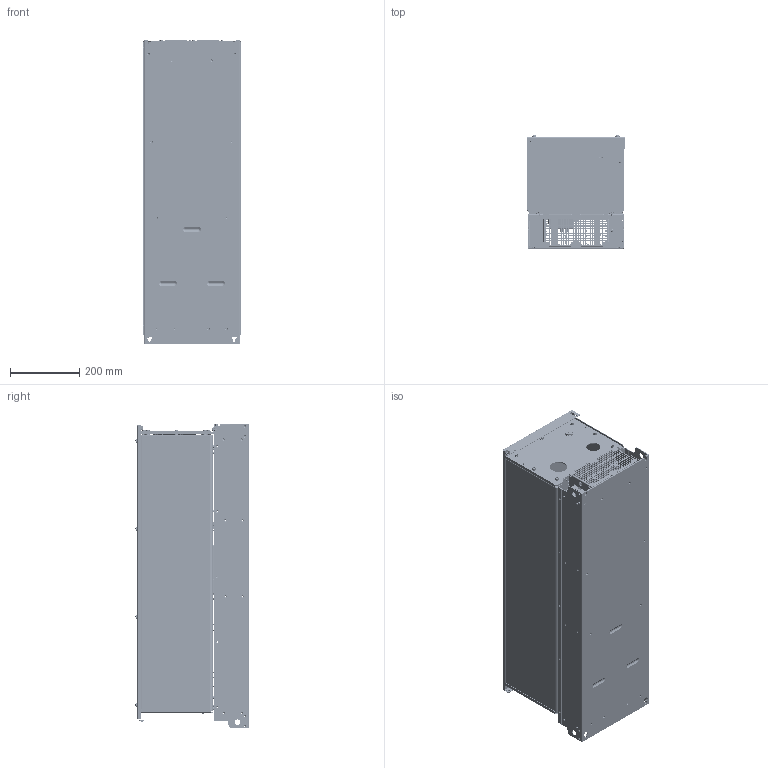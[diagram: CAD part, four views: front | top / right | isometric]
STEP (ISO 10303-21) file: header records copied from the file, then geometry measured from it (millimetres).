
FILE_DESCRIPTION(('STEP AP242'),'1');
FILE_NAME('atv212wd37n4c.stp','2019-06-11T12:59:38',('TraceParts'),('TraceParts S.A.'),'Spatial InterOp 3D',' ',' ');
FILE_SCHEMA(('AP242_MANAGED_MODEL_BASED_3D_ENGINEERING_MIM_LF {1 0 10303 442 1 1 4}'));
Length unit declared in the file: millimetre
Products named in the file (1): atv212wd37n4c_1
Bounding box: 285 x 327.67 x 880 mm (x, y, z)
Volume: 3030613.9 mm3; surface area: 3556855 mm2
Topology: 176 solids, 176 shells, 7933 faces, 20047 edges, 12490 vertices
Faces by surface type: plane 3176, cylinder 2996, cone 776, torus 516, sphere 262, bspline 186, extrusion 21
Entity records: 258127 total; most frequent: CARTESIAN_POINT 63356, DIRECTION 41713, ORIENTED_EDGE 39612, EDGE_CURVE 19806, AXIS2_PLACEMENT_3D 15569, VERTEX_POINT 12490, VECTOR 10575, LINE 10554
